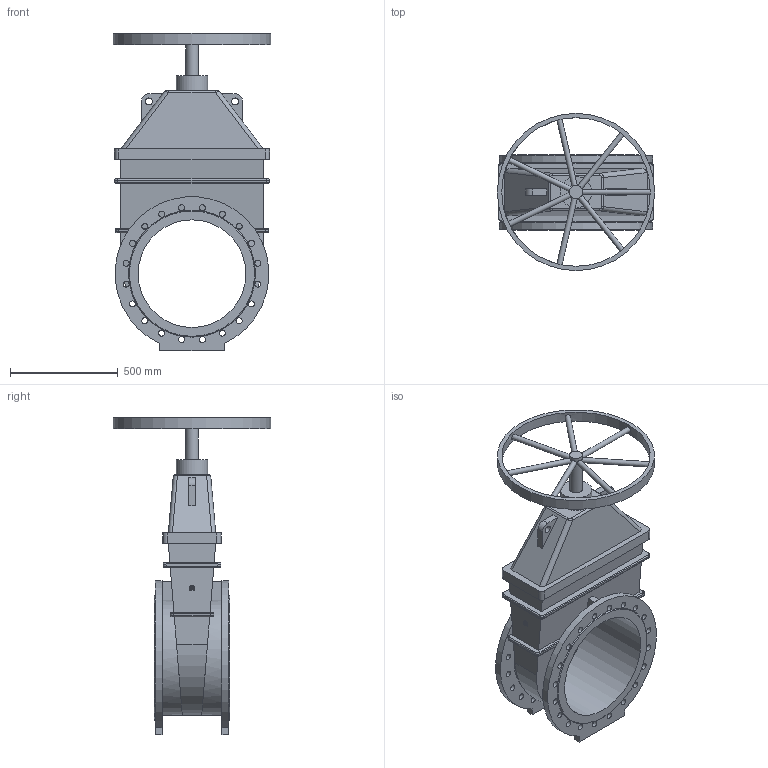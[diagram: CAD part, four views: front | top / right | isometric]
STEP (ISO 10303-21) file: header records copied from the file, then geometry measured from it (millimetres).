
FILE_DESCRIPTION(('STEP AP203'), '1');
FILE_NAME('Çàäâèæêà 47GV DN500 PN10_L350_W730 ñ ìàõîâèêîì', '', ('UNSPECIFIED'), ('UNSPECIFIED'), 'ASCON STEP Converter 1.6', 'ASCON Math Kernel', '');
FILE_SCHEMA(('CONFIG_CONTROL_DESIGN'));
Length unit declared in the file: millimetre
Bounding box: 730 x 730 x 1473.5 mm (x, y, z)
Volume: 109271394.5 mm3; surface area: 3920878 mm2
Topology: 1 solids, 1 shells, 215 faces, 549 edges, 352 vertices
Faces by surface type: cylinder 108, plane 85, bspline 16, torus 4, cone 2
Full cylindrical faces by diameter (mm): 25 x7, 28 x40, 32 x2, 60 x1, 145 x1, 500 x1, 690 x1, 730 x1
Entity records: 11021 total; most frequent: CARTESIAN_POINT 4154, DIRECTION 1006, ORIENTED_EDGE 984, EDGE_CURVE 492, EDGE_LOOP 388, AXIS2_PLACEMENT_3D 384, VERTEX_POINT 352, FACE_BOUND 277
